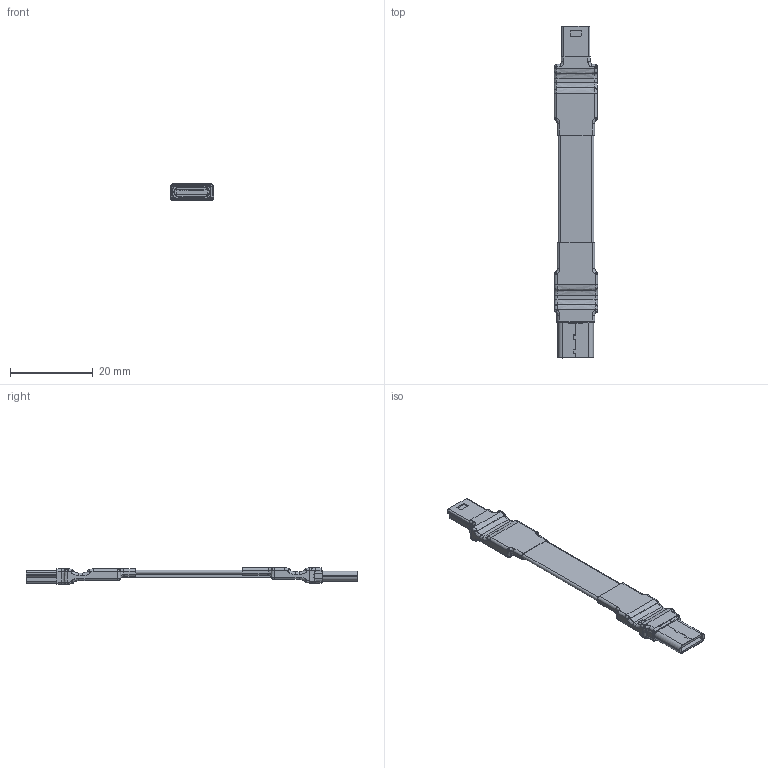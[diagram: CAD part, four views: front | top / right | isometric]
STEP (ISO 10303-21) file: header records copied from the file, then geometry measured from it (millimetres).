
FILE_DESCRIPTION(('Open CASCADE Model'),'2;1');
FILE_NAME('Open CASCADE Shape Model','2026-01-04T16:41:37',('Author'),( 'Open CASCADE'),'Open CASCADE STEP processor 7.5','Open CASCADE 7.5' ,'Unknown');
FILE_SCHEMA(('AUTOMOTIVE_DESIGN { 1 0 10303 214 1 1 1 1 }'));
Length unit declared in the file: millimetre
Products named in the file (49): PCB; Board; Open CASCADE STEP translator 7.5 5.1.1; Designator28; MINI USB B M 5Pһͥʽ¶̗ӽżӳ¤ǰϥº􏣀¼+ޫ; MINI USB B M 5Pһͥʽ¶̗ӽżӳ¤ǰϥº􏣀+f辭P4Ӛ; MINI USB B M 5PÒ»ÌåÊ½¶Ë×Ó½Å¼Ó³¤Ç°ÎåºóÎå; Open CASCADE STEP translator 7.5 5.3; C0603_060; Open CASCADE STEP translator 7.5 5.4; 0603_RES; Capsule; Encapsulation; TopCover; Open CASCADE STEP translator 7.5 5.5; type C T1; Free-Models; UN1 13P ƽֱɈ̵¹ڠ20260104_RGB4408131; USB 13P ƽֱɈ̵¹ڠ20251229_RGB4408131; cable13-US2A
Assembly tree (49 placements, depth 4):
  PCB
    Board
      Open CASCADE STEP translator 7.5 5.1.1
    Designator28
      MINI USB B M 5Pһͥʽ¶̗ӽżӳ¤ǰϥº􏣀¼+ޫ
      MINI USB B M 5Pһͥʽ¶̗ӽżӳ¤ǰϥº􏣀+f辭P4Ӛ
      MINI USB B M 5PÒ»ÌåÊ½¶Ë×Ó½Å¼Ó³¤Ç°ÎåºóÎå
      MINI USB B M 5PÒ»ÌåÊ½¶Ë×Ó½Å¼Ó³¤Ç°ÎåºóÎå
    Open CASCADE STEP translator 7.5 5.3
      C0603_060
      C0603_060
      C0603_060
    Open CASCADE STEP translator 7.5 5.4
      0603_RES
        Capsule
        Encapsulation  x2
        TopCover
    Open CASCADE STEP translator 7.5 5.5
      type C T1
    Free-Models
      UN1 13P ƽֱɈ̵¹ڠ20260104_RGB4408131
      USB 13P ƽֱɈ̵¹ڠ20251229_RGB4408131
      cable13-US2A
      cable13-US2A
      cable13-US2A
      cable13-US2A
      cable13-US2A
      cable13-US2A
      cable13-US2A
      cable13-US2A
      cable13-US2A
      cable13-US2A
      cable13-US2A
      cable13-US2A
      cable13-US2A
      cable13-US2A
      cable13-US2A
      cable13-US2A
      cable13-US2A
      cable13-US2A
      cable13-US2A
      cable13-US2A
      cable13-US2A
      cable13-US2A
      cable13-US2A
      cable13-US2A
      cable13-US2A
      cable13-US2A
      cable13-US2A
Bounding box: 10.42 x 80.3 x 3.98 mm (x, y, z)
Volume: 789.3 mm3; surface area: 5061.1 mm2
Topology: 42 solids, 42 shells, 1184 faces, 2925 edges, 1791 vertices
Faces by surface type: plane 602, cylinder 250, bspline 240, offset 58, torus 26, sphere 8
Full cylindrical faces by diameter (mm): 0.4 x65, 0.55 x26
Entity records: 93031 total; most frequent: CARTESIAN_POINT 63128, ORIENTED_EDGE 5646, DIRECTION 4298, EDGE_CURVE 2823, VERTEX_POINT 1771, LINE 1604, VECTOR 1604, AXIS2_PLACEMENT_3D 1347
